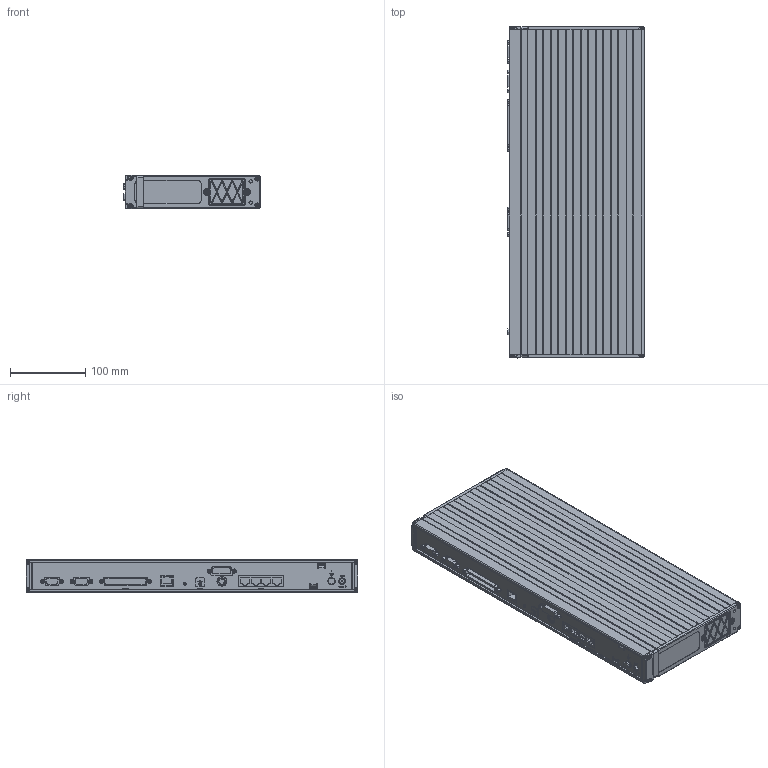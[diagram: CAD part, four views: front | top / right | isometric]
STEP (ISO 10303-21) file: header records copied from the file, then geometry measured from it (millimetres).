
FILE_DESCRIPTION(/* description */ (''),/* implementation_level */ '2;1');
FILE_NAME(/* name */ 'LA-5623-0400_A.stp',/* time_stamp */ '2018-06-08T11:41:07+01:00',/* author */ (''),/* organization */ (''),/* preprocessor_version */ 'ST-DEVELOPER v16',/* originating_system */ 'SIEMENS PLM Software NX 10.0',/* authorisation */ '');
FILE_SCHEMA (('AUTOMOTIVE_DESIGN { 1 0 10303 214 3 1 1 1 }'));
Products named in the file (1): aj060C2C93DFzs6p
Bounding box: 181.35 x 440 x 44.09 mm (x, y, z)
Volume: 522130.9 mm3; surface area: 472677.1 mm2
Topology: 2 solids, 2 shells, 3084 faces, 8302 edges, 5329 vertices
Faces by surface type: plane 1281, cylinder 1020, torus 282, cone 263, bspline 162, sphere 76
Full cylindrical faces by diameter (mm): 2 x5, 2.2 x1, 2.35 x8, 2.5 x14, 2.54 x1, 2.845 x8, 2.9 x8, 3.1 x5, 3.2 x8, 3.5 x10, 3.8 x6, 4 x1, 4.351 x4, 4.5 x1, 5 x2, 5.39 x1, 5.5 x8, 6.5 x1, 6.7 x4, 7.5 x1, 8.7 x1, 9 x1, 9.246 x1, 9.5 x1, 9.82 x1, 12.5 x1, 13 x1, 13.5 x1
Entity records: 118900 total; most frequent: CARTESIAN_POINT 26874, ORIENTED_EDGE 15904, DIRECTION 15554, EDGE_CURVE 7952, AXIS2_PLACEMENT_3D 5926, VERTEX_POINT 5246, LINE 3702, VECTOR 3702
